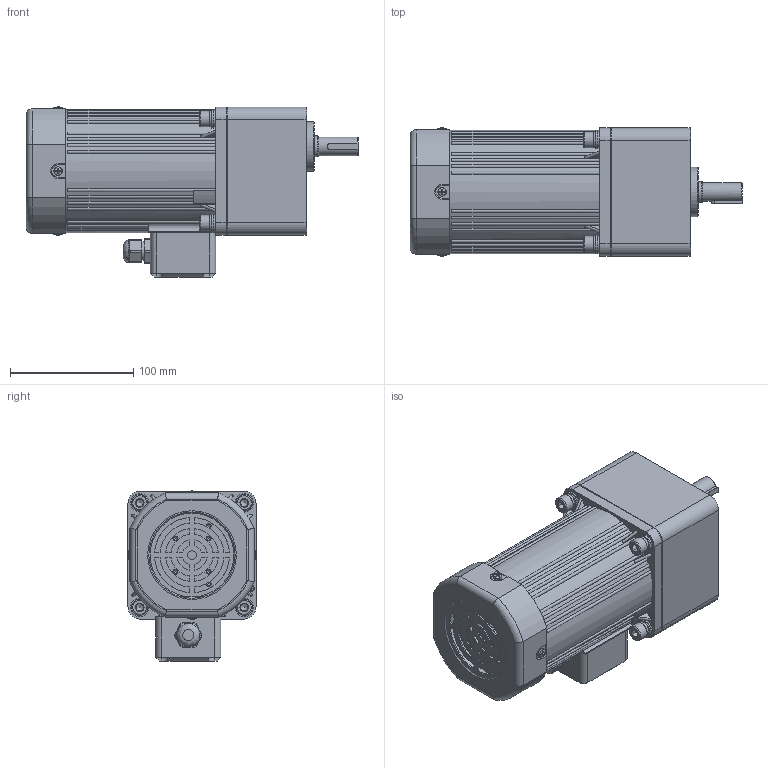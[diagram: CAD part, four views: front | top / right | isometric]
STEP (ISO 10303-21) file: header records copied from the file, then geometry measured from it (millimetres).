
FILE_DESCRIPTION(/* description */ (''),/* implementation_level */ '2;1');
FILE_NAME(/* name */ '6RK160-200GUC·TF_6GU3-750K-C·15L常规接线盒.stp',/* time_stamp */ '2025-04-13T15:53:00+08:00',/* author */ (''),/* organization */ (''),/* preprocessor_version */ 'ST-DEVELOPER v18.102',/* originating_system */ 'SIEMENS PLM Software NX 2027',/* authorisation */ '');
FILE_SCHEMA (('AP203_CONFIGURATION_CONTROLLED_3D_DESIGN_OF_MECHANICAL_PARTS_AND_ASSEMBLIES_MIM_LF { 1 0 10303 403 2 1 2}'));
Length unit declared in the file: millimetre
Products named in the file (1): 6RK160-200CC·F_6GU3-750K-C·15L_stp_M066263C6523mu
2w
Bounding box: 269.5 x 104.06 x 138.03 mm (x, y, z)
Volume: 982299.6 mm3; surface area: 275842.5 mm2
Topology: 23 solids, 24 shells, 1280 faces, 3352 edges, 2181 vertices
Faces by surface type: plane 516, cylinder 368, bspline 176, cone 133, torus 71, sphere 16
Full cylindrical faces by diameter (mm): 3 x16, 3.5 x4, 3.6 x4, 4 x5, 4.5 x4, 4.55 x1, 5.15 x1, 6.8 x16, 7 x1, 7.76 x4, 8.4 x4, 8.5 x4, 9 x5, 12 x1, 13 x5, 14 x5, 15 x8, 15.5 x1, 16 x1, 17 x1, 17.3 x1, 18 x1, 19 x2, 21 x1, 28 x1, 30 x2, 35 x1, 40 x1, 45 x1, 46 x1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
Entity records: 39080 total; most frequent: CARTESIAN_POINT 9862, ORIENTED_EDGE 5926, DIRECTION 5580, EDGE_CURVE 2963, AXIS2_PLACEMENT_3D 2217, VERTEX_POINT 2036, EDGE_LOOP 1642, ADVANCED_FACE 1280
